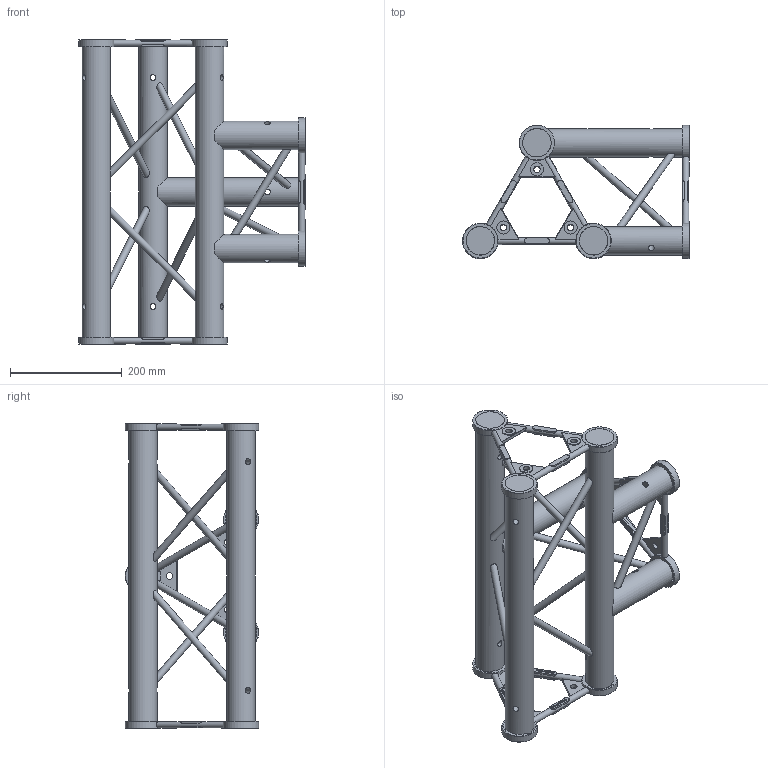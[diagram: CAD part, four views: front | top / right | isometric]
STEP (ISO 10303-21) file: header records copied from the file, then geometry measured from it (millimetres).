
FILE_DESCRIPTION(/* description */ (''),/* implementation_level */ '2;1');
FILE_NAME(/* name */ 'C:\Users\stephan\Desktop\A03\Corners\112030026.stp',/* time_stamp */ '2016-02-12T15:37:23+01:00',/* author */ ('Stephan'),/* organization */ (''),/* preprocessor_version */ 'ST-DEVELOPER v15.6',/* originating_system */ 'Autodesk Inventor 2015',/* authorisation */ '');
FILE_SCHEMA (('AUTOMOTIVE_DESIGN { 1 0 10303 214 3 1 1 }'));
Length unit declared in the file: centimetre
Products named in the file (1): 260001091
Bounding box: 406.25 x 239.1 x 546.2 mm (x, y, z)
Volume: 4960027.4 mm3; surface area: 577437.7 mm2
Topology: 4 solids, 4 shells, 2916 faces, 7824 edges, 5208 vertices
Faces by surface type: plane 1437, bspline 1284, cylinder 159, cone 18, torus 18
Full cylindrical faces by diameter (mm): 10.5 x9, 11.5 x18, 12.7 x9, 23.5 x9, 50.8 x6, 51.3 x9, 63.3 x9
Entity records: 104577 total; most frequent: CARTESIAN_POINT 38169, ORIENTED_EDGE 15342, DIRECTION 8429, EDGE_CURVE 7671, VERTEX_POINT 5154, LINE 4647, VECTOR 4647, EDGE_LOOP 3381
